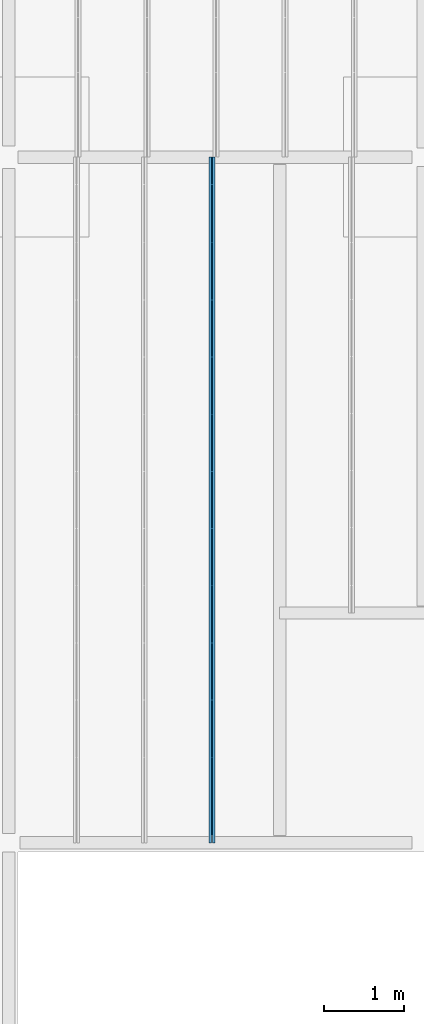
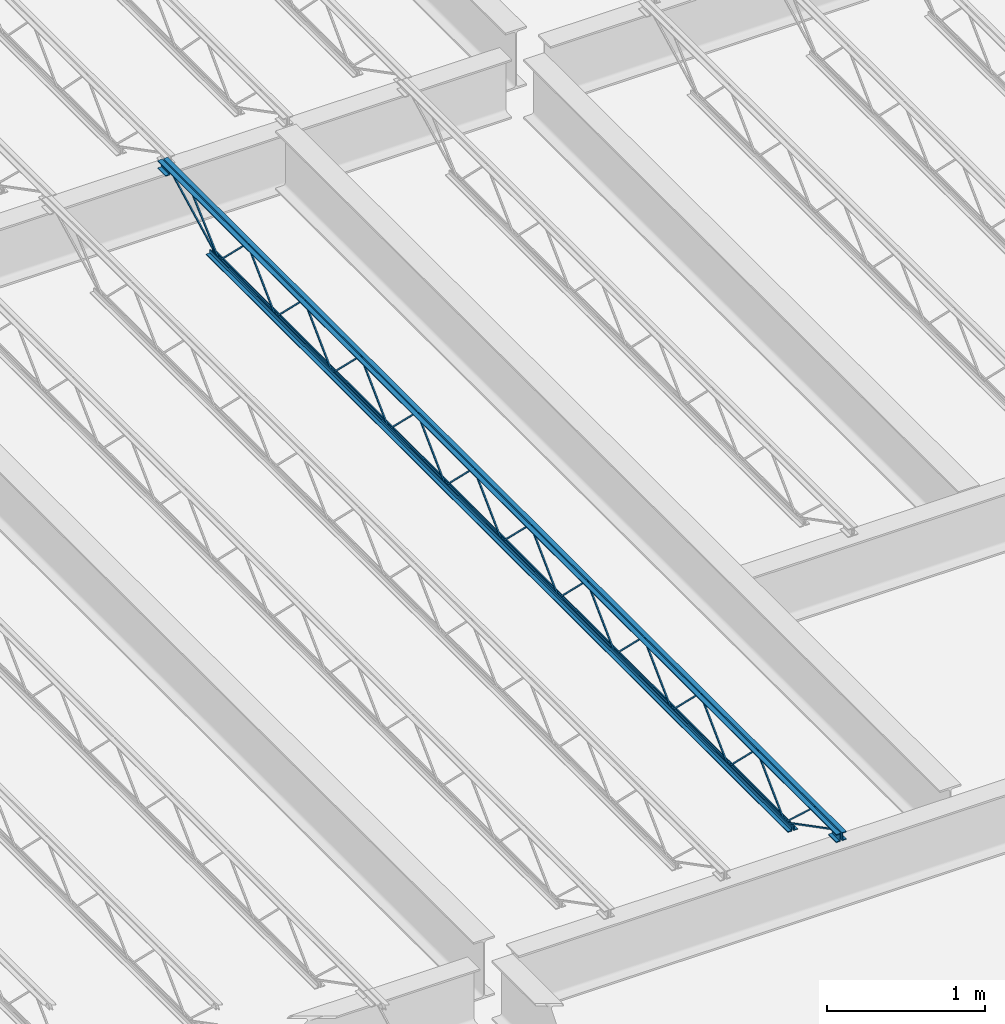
# One storey, part 19 of 75: 1 beam.
"""IFC2X3 building model written with IfcOpenShell, lengths in metres."""

from ifc_helpers import new_model, entity, si_unit, converted_unit, frame, origin, place, context, project, spatial, face_set, surface_model, element, save


model = new_model("IFC2X3")

# Units and contexts
model_context = context("Model", 3, precision=1e-09, world=origin())
plan_context = context("Plan", 3, precision=1e-09, world=origin())
ifc_project = project(units=[si_unit("LENGTHUNIT", "METRE"), si_unit("AREAUNIT", "SQUARE_METRE"), si_unit("VOLUMEUNIT", "CUBIC_METRE"), converted_unit("PLANEANGLEUNIT", "DEGREE", entity("IfcRatioMeasure", 0.01745329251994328), si_unit("PLANEANGLEUNIT", "RADIAN"), dimensions=[0, 0, 0, 0, 0, 0, 0]), si_unit("TIMEUNIT", "SECOND")], contexts=[model_context, plan_context])

# Site, building, storey
site_placement = place(None, origin())
site = spatial("IfcSite", under=ifc_project, at=site_placement, Name="Default", CompositionType="ELEMENT")
building_placement = place(site_placement, origin())
building = spatial("IfcBuilding", under=site, at=building_placement, CompositionType="ELEMENT")
storey_placement = place(building_placement, origin())
storey = spatial("IfcBuildingStorey", under=building, at=storey_placement, Name="First Floor", CompositionType="ELEMENT", Elevation=-3.531500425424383e-13)

# Beam
beam_placement = place(storey_placement, frame((-17.55804409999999, 10.03999999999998, 4.112000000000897), z_axis=(0.0, 0.0, 1.0), x_axis=(-1.0, 0.0, 0.0)))
element("IfcBeam", 1, at=beam_placement, inside=storey, Name="M_K-Series Bar Joist-Rod Web:14K1:14K1", ObjectType="M_K-Series Bar Joist-Rod Web:14K1", context=model_context, shape_type="SurfaceModel", body=[
    surface_model("IfcFaceBasedSurfaceModel", [(-0.03200000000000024, -2.141200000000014, 0.01110000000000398), (-0.04149999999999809, -2.141200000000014, 0.01110000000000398), (-0.04149999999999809, -2.141200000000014, 0.001600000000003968), (-0.03200000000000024, -2.141200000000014, 0.001600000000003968), (-0.04150000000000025, -2.139961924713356, 0.01110000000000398), (-0.03200000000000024, -2.139961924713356, 0.01110000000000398), (-0.04149999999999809, -2.136088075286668, 0.001600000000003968), (-0.04149999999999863, -1.78513807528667, 0.3449000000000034), (-0.04149999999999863, -1.782661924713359, 0.3449000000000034), (-0.04149999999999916, -1.431711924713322, 0.001600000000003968), (-0.04149999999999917, -1.426600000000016, 0.001600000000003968), (-0.04149999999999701, -1.426600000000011, 0.01110000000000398), (-0.04149999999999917, -1.427838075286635, 0.01110000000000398), (-0.04149999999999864, -1.778788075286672, 0.3544000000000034), (-0.04149999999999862, -1.789011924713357, 0.3544000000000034), (-0.03199999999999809, -2.136088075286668, 0.001600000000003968), (-0.03200000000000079, -1.78513807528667, 0.3449000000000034), (-0.03200000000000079, -1.782661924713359, 0.3449000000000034), (-0.03200000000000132, -1.431711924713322, 0.001600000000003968), (-0.03200000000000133, -1.426600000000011, 0.001600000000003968), (-0.03200000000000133, -1.426600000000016, 0.01110000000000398), (-0.03200000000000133, -1.427838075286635, 0.01110000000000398), (-0.03200000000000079, -1.778788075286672, 0.3544000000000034), (-0.03200000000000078, -1.789011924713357, 0.3544000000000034), (-0.03200000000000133, -2.855800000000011, 0.01110000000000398), (-0.04149999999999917, -2.855800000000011, 0.01110000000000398), (-0.04149999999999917, -2.855800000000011, 0.001600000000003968), (-0.03200000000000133, -2.855800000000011, 0.001600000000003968), (-0.04150000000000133, -2.854561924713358, 0.01110000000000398), (-0.03200000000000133, -2.854561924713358, 0.01110000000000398), (-0.04149999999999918, -2.850688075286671, 0.001600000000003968), (-0.04149999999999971, -2.499738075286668, 0.3449000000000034), (-0.04149999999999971, -2.497261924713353, 0.3449000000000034), (-0.04150000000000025, -2.146311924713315, 0.001600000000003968), (-0.04150000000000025, -2.142438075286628, 0.01110000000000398), (-0.04149999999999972, -2.493388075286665, 0.3544000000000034), (-0.0414999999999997, -2.503611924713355, 0.3544000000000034), (-0.03199999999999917, -2.850688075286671, 0.001600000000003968), (-0.03200000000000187, -2.499738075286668, 0.3449000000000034), (-0.03200000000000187, -2.497261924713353, 0.3449000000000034), (-0.0320000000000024, -2.146311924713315, 0.001600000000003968), (-0.03200000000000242, -2.141200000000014, 0.001600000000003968), (-0.03200000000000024, -2.142438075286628, 0.01110000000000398), (-0.03200000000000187, -2.493388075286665, 0.3544000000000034), (-0.03200000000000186, -2.503611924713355, 0.3544000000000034), (-0.03200000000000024, -3.570400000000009, 0.01110000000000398), (-0.04149999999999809, -3.570400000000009, 0.01110000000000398), (-0.04149999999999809, -3.570400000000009, 0.001600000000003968), (-0.03200000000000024, -3.570400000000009, 0.001600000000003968), (-0.04150000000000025, -3.569161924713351, 0.01110000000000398), (-0.03200000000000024, -3.569161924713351, 0.01110000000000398), (-0.04149999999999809, -3.565288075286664, 0.001600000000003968), (-0.04149999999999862, -3.214338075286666, 0.3449000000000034), (-0.04149999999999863, -3.211861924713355, 0.3449000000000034), (-0.04149999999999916, -2.860911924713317, 0.001600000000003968), (-0.04149999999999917, -2.855800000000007, 0.001600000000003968), (-0.04149999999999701, -2.855800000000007, 0.01110000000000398), (-0.04149999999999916, -2.857038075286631, 0.01110000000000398), (-0.04149999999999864, -3.207988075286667, 0.3544000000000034), (-0.04149999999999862, -3.218211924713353, 0.3544000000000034), (-0.03199999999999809, -3.565288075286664, 0.001600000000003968), (-0.03200000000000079, -3.214338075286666, 0.3449000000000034), (-0.03200000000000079, -3.211861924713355, 0.3449000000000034), (-0.03200000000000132, -2.860911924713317, 0.001600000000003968), (-0.03200000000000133, -2.855800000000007, 0.001600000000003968), (-0.03200000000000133, -2.855800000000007, 0.01110000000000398), (-0.03200000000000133, -2.857038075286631, 0.01110000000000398), (-0.03200000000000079, -3.207988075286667, 0.3544000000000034), (-0.03200000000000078, -3.218211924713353, 0.3544000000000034), (-0.03200000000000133, -4.285000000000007, 0.01110000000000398), (-0.04149999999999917, -4.285000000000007, 0.01110000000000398), (-0.04149999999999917, -4.285000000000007, 0.001600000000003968), (-0.03200000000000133, -4.285000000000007, 0.001600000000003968), (-0.04150000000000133, -4.283761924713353, 0.01110000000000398), (-0.03200000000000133, -4.283761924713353, 0.01110000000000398), (-0.04149999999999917, -4.279888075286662, 0.001600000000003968), (-0.0414999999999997, -3.928938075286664, 0.3449000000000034), (-0.04149999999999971, -3.926461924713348, 0.3449000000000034), (-0.04150000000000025, -3.575511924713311, 0.001600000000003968), (-0.04150000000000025, -3.571638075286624, 0.01110000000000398), (-0.04149999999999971, -3.922588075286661, 0.3544000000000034), (-0.0414999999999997, -3.932811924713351, 0.3544000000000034), (-0.03199999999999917, -4.279888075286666, 0.001600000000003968), (-0.03200000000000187, -3.928938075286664, 0.3449000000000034), (-0.03200000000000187, -3.926461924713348, 0.3449000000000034), (-0.0320000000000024, -3.575511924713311, 0.001600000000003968), (-0.03200000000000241, -3.570400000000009, 0.001600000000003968), (-0.03200000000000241, -3.571638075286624, 0.01110000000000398), (-0.03200000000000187, -3.922588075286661, 0.3544000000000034), (-0.03200000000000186, -3.932811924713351, 0.3544000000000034), (-0.03200000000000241, -4.999600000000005, 0.01110000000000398), (-0.04150000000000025, -4.999600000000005, 0.01110000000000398), (-0.04150000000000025, -4.999600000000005, 0.001600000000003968), (-0.03200000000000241, -4.999600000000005, 0.001600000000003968), (-0.04150000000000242, -4.998361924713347, 0.01110000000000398), (-0.03200000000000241, -4.998361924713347, 0.01110000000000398), (-0.04149999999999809, -4.99448807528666, 0.001600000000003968), (-0.04149999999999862, -4.643538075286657, 0.3449000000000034), (-0.04149999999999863, -4.64106192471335, 0.3449000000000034), (-0.04149999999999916, -4.290111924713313, 0.001600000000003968), (-0.04149999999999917, -4.285000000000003, 0.001600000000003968), (-0.04149999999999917, -4.285000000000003, 0.01110000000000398), (-0.04150000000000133, -4.286238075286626, 0.01110000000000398), (-0.04150000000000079, -4.637188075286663, 0.3544000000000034), (-0.04150000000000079, -4.647411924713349, 0.3544000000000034), (-0.03200000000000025, -4.99448807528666, 0.001600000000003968), (-0.03200000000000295, -4.643538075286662, 0.3449000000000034), (-0.03200000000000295, -4.64106192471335, 0.3449000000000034), (-0.03200000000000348, -4.290111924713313, 0.001600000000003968), (-0.03200000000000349, -4.285000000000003, 0.001600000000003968), (-0.03200000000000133, -4.285000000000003, 0.01110000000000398), (-0.03200000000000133, -4.286238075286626, 0.01110000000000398), (-0.03200000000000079, -4.637188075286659, 0.3544000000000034), (-0.03200000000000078, -4.647411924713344, 0.3544000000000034), (-0.03200000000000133, -5.714200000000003, 0.01110000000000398), (-0.04149999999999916, -5.714200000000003, 0.01110000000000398), (-0.04149999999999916, -5.714200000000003, 0.001600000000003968), (-0.03200000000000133, -5.714200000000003, 0.001600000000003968), (-0.04150000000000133, -5.712961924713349, 0.01110000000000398), (-0.03200000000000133, -5.712961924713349, 0.01110000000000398), (-0.04149999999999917, -5.709088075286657, 0.001600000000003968), (-0.0414999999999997, -5.35813807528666, 0.3449000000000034), (-0.04149999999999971, -5.355661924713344, 0.3449000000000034), (-0.04150000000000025, -5.004711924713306, 0.001600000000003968), (-0.04149999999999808, -4.999600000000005, 0.01110000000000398), (-0.04150000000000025, -5.00083807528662, 0.01110000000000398), (-0.04149999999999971, -5.351788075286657, 0.3544000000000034), (-0.0414999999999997, -5.362011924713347, 0.3544000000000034), (-0.03199999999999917, -5.709088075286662, 0.001600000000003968), (-0.03200000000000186, -5.35813807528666, 0.3449000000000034), (-0.03200000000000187, -5.355661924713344, 0.3449000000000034), (-0.0320000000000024, -5.004711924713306, 0.001600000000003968), (-0.0320000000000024, -5.00083807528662, 0.01110000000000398), (-0.03200000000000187, -5.351788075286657, 0.3544000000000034), (-0.03200000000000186, -5.362011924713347, 0.3544000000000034), (-0.03200000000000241, -6.428800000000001, 0.01110000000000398), (-0.04150000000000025, -6.428800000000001, 0.01110000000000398), (-0.04150000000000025, -6.428800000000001, 0.001600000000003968), (-0.03200000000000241, -6.428800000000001, 0.001600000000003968), (-0.04150000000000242, -6.427561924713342, 0.01110000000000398), (-0.03200000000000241, -6.427561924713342, 0.01110000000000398), (-0.04149999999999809, -6.423688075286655, 0.001600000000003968), (-0.04149999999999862, -6.072738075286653, 0.3449000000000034), (-0.04149999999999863, -6.070261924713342, 0.3449000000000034), (-0.04149999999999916, -5.719311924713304, 0.001600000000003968), (-0.04149999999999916, -5.714199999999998, 0.001600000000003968), (-0.04149999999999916, -5.714199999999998, 0.01110000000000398), (-0.04150000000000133, -5.715438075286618, 0.01110000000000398), (-0.04150000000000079, -6.066388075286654, 0.3544000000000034), (-0.04150000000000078, -6.07661192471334, 0.3544000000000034), (-0.03200000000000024, -6.423688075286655, 0.001600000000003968), (-0.03200000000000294, -6.072738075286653, 0.3449000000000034), (-0.03200000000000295, -6.070261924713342, 0.3449000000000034), (-0.03200000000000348, -5.719311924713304, 0.001600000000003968), (-0.03200000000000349, -5.714199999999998, 0.001600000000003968), (-0.03200000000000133, -5.714199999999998, 0.01110000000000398), (-0.03200000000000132, -5.715438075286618, 0.01110000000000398), (-0.03200000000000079, -6.066388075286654, 0.3544000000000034), (-0.03200000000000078, -6.07661192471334, 0.3544000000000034), (-0.03200000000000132, -7.143399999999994, 0.01110000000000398), (-0.04149999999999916, -7.143399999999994, 0.01110000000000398), (-0.04149999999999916, -7.143399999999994, 0.001600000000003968), (-0.03200000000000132, -7.143399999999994, 0.001600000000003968), (-0.04150000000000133, -7.14216192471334, 0.01110000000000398), (-0.03200000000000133, -7.14216192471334, 0.01110000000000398), (-0.04149999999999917, -7.138288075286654, 0.001600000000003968), (-0.0414999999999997, -6.787338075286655, 0.3449000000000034), (-0.0414999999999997, -6.784861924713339, 0.3449000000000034), (-0.04150000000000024, -6.433911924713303, 0.001600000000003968), (-0.04150000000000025, -6.428799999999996, 0.001600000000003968), (-0.04149999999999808, -6.428799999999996, 0.01110000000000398), (-0.04150000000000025, -6.430038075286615, 0.01110000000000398), (-0.04149999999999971, -6.780988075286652, 0.3544000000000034), (-0.0414999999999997, -6.791211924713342, 0.3544000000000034), (-0.03199999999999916, -7.138288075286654, 0.001600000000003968), (-0.03200000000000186, -6.787338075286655, 0.3449000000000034), (-0.03200000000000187, -6.784861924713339, 0.3449000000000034), (-0.0320000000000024, -6.433911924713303, 0.001600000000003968), (-0.03200000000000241, -6.428799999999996, 0.001600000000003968), (-0.03200000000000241, -6.428799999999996, 0.01110000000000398), (-0.0320000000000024, -6.430038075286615, 0.01110000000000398), (-0.03200000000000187, -6.780988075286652, 0.3544000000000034), (-0.03200000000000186, -6.791211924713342, 0.3544000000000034), (-0.03199999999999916, -1.426600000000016, 0.01109999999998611), (-0.04149999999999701, -1.426600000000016, 0.01109999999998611), (-0.04149999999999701, -1.426600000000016, 0.0015999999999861), (-0.03199999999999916, -1.426600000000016, 0.0015999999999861), (-0.04149999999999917, -1.425361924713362, 0.01109999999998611), (-0.03199999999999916, -1.425361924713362, 0.01109999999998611), (-0.04149999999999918, -1.421488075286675, 0.0015999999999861), (-0.04149999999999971, -1.070538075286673, 0.3448999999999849), (-0.04149999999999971, -1.068061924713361, 0.3448999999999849), (-0.04150000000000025, -0.7171119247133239, 0.0015999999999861), (-0.04149999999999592, -0.712000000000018, 0.0015999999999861), (-0.04149999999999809, -0.7120000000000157, 0.01109999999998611), (-0.04150000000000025, -0.7132380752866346, 0.01109999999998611), (-0.04149999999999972, -1.06418807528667, 0.354399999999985), (-0.0414999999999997, -1.07441192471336, 0.354399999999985), (-0.03199999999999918, -1.421488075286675, 0.0015999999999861), (-0.0319999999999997, -1.070538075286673, 0.3448999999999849), (-0.0319999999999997, -1.068061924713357, 0.3448999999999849), (-0.03200000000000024, -0.7171119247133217, 0.0015999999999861), (-0.03200000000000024, -0.7120000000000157, 0.0015999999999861), (-0.03199999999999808, -0.712000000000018, 0.01109999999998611), (-0.03199999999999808, -0.7132380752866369, 0.01109999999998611), (-0.03199999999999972, -1.064188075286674, 0.354399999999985), (-0.0319999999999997, -1.07441192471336, 0.354399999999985), (-0.0320000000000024, -7.857999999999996, 0.01110000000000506), (-0.04150000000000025, -7.857999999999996, 0.01110000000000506), (-0.04150000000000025, -7.857999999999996, 0.001600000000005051), (-0.0320000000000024, -7.857999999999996, 0.001600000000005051), (-0.04150000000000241, -7.856761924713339, 0.01110000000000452), (-0.03200000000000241, -7.856761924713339, 0.01110000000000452), (-0.04149999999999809, -7.852888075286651, 0.001600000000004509), (-0.04149999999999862, -7.501938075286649, 0.3449000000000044), (-0.04149999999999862, -7.499461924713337, 0.3449000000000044), (-0.04149999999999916, -7.1485119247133, 0.001600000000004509), (-0.04149999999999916, -7.143399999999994, 0.001600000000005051), (-0.04149999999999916, -7.143399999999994, 0.01110000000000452), (-0.04150000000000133, -7.144638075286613, 0.01110000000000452), (-0.04150000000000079, -7.49558807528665, 0.3544000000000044), (-0.04150000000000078, -7.505811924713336, 0.3544000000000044), (-0.03200000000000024, -7.852888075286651, 0.001600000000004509), (-0.03200000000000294, -7.501938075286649, 0.3449000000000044), (-0.03200000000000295, -7.499461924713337, 0.3449000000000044), (-0.03200000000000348, -7.1485119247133, 0.001600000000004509), (-0.03200000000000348, -7.143399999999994, 0.001600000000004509), (-0.03200000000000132, -7.143399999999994, 0.01110000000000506), (-0.03200000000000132, -7.144638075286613, 0.01110000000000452), (-0.03200000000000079, -7.49558807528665, 0.3544000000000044), (-0.03200000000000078, -7.505811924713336, 0.3544000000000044), (-0.04150000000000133, 0.0, 0.3559999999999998), (-0.07350000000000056, 0.0, 0.3559999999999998), (-0.07350000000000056, 0.0, 0.349499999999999), (-0.04800000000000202, 0.0, 0.349499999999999), (-0.04800000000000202, 0.0, 0.3239999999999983), (-0.04150000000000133, 0.0, 0.3239999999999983), (-0.03200000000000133, 0.0, 0.3559999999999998), (-0.03200000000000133, 0.0, 0.3239999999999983), (-0.02550000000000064, 0.0, 0.3239999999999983), (-0.02550000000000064, 0.0, 0.349499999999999), (0.0, 0.0, 0.349499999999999), (0.0, 0.0, 0.3559999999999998), (-0.04150000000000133, -8.569999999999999, 0.3559999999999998), (-0.07350000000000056, -8.569999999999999, 0.3559999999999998), (-0.07350000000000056, -8.569999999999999, 0.349499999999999), (-0.04800000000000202, -8.569999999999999, 0.349499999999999), (-0.04800000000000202, -8.569999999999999, 0.3239999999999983), (-0.04150000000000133, -8.569999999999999, 0.3239999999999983), (-0.03200000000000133, -8.569999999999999, 0.3559999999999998), (-0.03200000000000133, -8.569999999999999, 0.3239999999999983), (-0.02550000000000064, -8.569999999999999, 0.3239999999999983), (-0.02550000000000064, -8.569999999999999, 0.349499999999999), (0.0, -8.569999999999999, 0.349499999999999), (0.0, -8.569999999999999, 0.3559999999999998), (-0.03200000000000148, -8.470000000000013, 0.2924999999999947), (0.0, -8.470000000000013, 0.2924999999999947), (0.0, -8.470000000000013, 0.2989999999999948), (-0.02550000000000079, -8.470000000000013, 0.2989999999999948), (-0.02550000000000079, -8.470000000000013, 0.3239999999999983), (-0.03200000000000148, -8.470000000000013, 0.3239999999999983), (-0.0735000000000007, -8.470000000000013, 0.2924999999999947), (-0.04150000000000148, -8.470000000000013, 0.2924999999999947), (-0.04150000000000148, -8.470000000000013, 0.3239999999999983), (-0.04800000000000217, -8.470000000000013, 0.3239999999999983), (-0.04800000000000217, -8.470000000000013, 0.2989999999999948), (-0.0735000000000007, -8.470000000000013, 0.2989999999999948), (-0.03200000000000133, -8.569999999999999, 0.2924999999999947), (0.0, -8.569999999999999, 0.2924999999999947), (0.0, -8.569999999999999, 0.2989999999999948), (-0.02550000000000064, -8.569999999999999, 0.2989999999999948), (-0.07350000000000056, -8.569999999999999, 0.2924999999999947), (-0.04150000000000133, -8.569999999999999, 0.2924999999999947), (-0.04800000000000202, -8.569999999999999, 0.2989999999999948), (-0.07350000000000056, -8.569999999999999, 0.2989999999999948), (-0.04150000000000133, 0.0, 0.2924999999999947), (-0.04799999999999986, 0.0, 0.3239999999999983), (-0.04799999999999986, 0.0, 0.2989999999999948), (-0.07350000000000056, 0.0, 0.2989999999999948), (-0.07350000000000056, 0.0, 0.2924999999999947), (-0.03200000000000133, 0.0, 0.2924999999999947), (0.0, 0.0, 0.2924999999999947), (0.0, 0.0, 0.2989999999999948), (-0.02550000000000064, 0.0, 0.2989999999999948), (-0.04150000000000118, -0.09999999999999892, 0.2924999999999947), (-0.04150000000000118, -0.09999999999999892, 0.3239999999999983), (-0.0479999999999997, -0.09999999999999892, 0.3239999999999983), (-0.0479999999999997, -0.09999999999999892, 0.2989999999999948), (-0.07350000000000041, -0.09999999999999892, 0.2989999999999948), (-0.07350000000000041, -0.09999999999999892, 0.2924999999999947), (-0.03200000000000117, -0.09999999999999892, 0.2924999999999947), (0.0, -0.09999999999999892, 0.2924999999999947), (0.0, -0.09999999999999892, 0.2989999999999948), (-0.02550000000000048, -0.09999999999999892, 0.2989999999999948), (-0.02550000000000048, -0.09999999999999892, 0.3239999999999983), (-0.03200000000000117, -0.09999999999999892, 0.3239999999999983), (-0.04150000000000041, -0.6119999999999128, 0.0), (-0.04150000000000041, -0.6119999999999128, 0.03199999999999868), (-0.04800000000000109, -0.6119999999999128, 0.03199999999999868), (-0.04800000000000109, -0.6119999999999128, 0.006499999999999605), (-0.07349999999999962, -0.6119999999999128, 0.006499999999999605), (-0.07349999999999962, -0.6119999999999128, 0.0), (-0.0320000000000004, -0.6119999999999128, 0.0), (0.0, -0.6119999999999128, 0.0), (0.0, -0.6119999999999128, 0.006499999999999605), (-0.02549999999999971, -0.6119999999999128, 0.006499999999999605), (-0.02549999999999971, -0.6119999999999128, 0.03199999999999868), (-0.0320000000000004, -0.6119999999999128, 0.03199999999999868), (-0.04150000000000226, -7.957999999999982, 0.0), (-0.04150000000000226, -7.957999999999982, 0.03199999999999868), (-0.04800000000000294, -7.957999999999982, 0.03199999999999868), (-0.04800000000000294, -7.957999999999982, 0.006499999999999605), (-0.07350000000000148, -7.957999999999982, 0.006499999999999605), (-0.07350000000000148, -7.957999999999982, 0.0), (-0.03200000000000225, -7.957999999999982, 0.0), (0.0, -7.957999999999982, 0.0), (0.0, -7.957999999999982, 0.006499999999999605), (-0.02550000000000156, -7.957999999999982, 0.006499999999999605), (-0.02550000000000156, -7.957999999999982, 0.03199999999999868), (-0.03200000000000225, -7.957999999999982, 0.03199999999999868), (-0.03200000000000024, -7.855811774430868, 0.01056594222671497), (-0.04150000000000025, -7.855811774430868, 0.01056594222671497), (-0.04150000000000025, -7.860188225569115, 0.002134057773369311), (-0.0320000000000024, -7.860188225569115, 0.002134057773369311), (-0.03199999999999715, -8.468840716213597, 0.3287499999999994), (-0.031999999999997, -8.569999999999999, 0.3287499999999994), (-0.03199999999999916, -8.569999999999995, 0.3192499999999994), (-0.03199999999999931, -8.471159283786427, 0.3192499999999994), (-0.04149999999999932, -8.471159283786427, 0.3192499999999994), (-0.04149999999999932, -8.468840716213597, 0.3287499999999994), (-0.04149999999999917, -8.569999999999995, 0.3287499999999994), (-0.04149999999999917, -8.569999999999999, 0.3192499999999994), (-0.03200000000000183, -8.235257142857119, 0.341700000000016), (-0.04149999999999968, -8.235257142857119, 0.341700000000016), (-0.04149999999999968, -8.235257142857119, 0.332200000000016), (-0.03200000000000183, -8.235257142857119, 0.332200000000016), (-0.04150000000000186, -8.220724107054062, 0.341700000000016), (-0.03200000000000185, -8.220724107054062, 0.341700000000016), (-0.04149999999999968, -8.22439017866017, 0.332200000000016), (-0.04150000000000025, -7.86119088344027, 0.002831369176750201), (-0.04150000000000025, -7.854809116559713, 0.009868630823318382), (-0.03199999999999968, -8.22439017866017, 0.332200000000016), (-0.0320000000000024, -7.86119088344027, 0.002831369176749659), (-0.03200000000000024, -7.854809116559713, 0.009868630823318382), (-0.03199999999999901, -0.09781177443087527, 0.3197840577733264), (-0.03200000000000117, -0.1021882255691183, 0.3282159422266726), (-0.04150000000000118, -0.1021882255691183, 0.3282159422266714), (-0.04149999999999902, -0.09781177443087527, 0.3197840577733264), (-0.03199999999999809, -0.7098117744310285, 0.002134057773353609), (-0.03200000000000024, -0.7141882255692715, 0.01056594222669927), (-0.04150000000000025, -0.7141882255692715, 0.01056594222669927), (-0.04149999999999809, -0.7098117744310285, 0.002134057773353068), (-0.03199999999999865, -0.3369634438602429, 0.3461600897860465), (-0.03200000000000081, -0.3434079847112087, 0.3531399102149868), (-0.04150000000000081, -0.3434079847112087, 0.3531399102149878), (-0.04149999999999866, -0.3369634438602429, 0.3461600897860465), (-0.03199999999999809, -0.7087777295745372, 0.002860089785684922), (-0.03200000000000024, -0.7152222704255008, 0.009839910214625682), (-0.04150000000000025, -0.7152222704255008, 0.009839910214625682), (-0.04149999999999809, -0.7087777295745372, 0.002860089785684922)], [face_set([[[0, 1, 2, 3]], [[1, 4, 5, 0]], [[2, 6, 7, 8, 9, 10, 11, 12, 13, 14, 4, 1]], [[3, 2, 6, 15]], [[0, 3, 15, 16, 17, 18, 19, 20, 21, 22, 23, 5]], [[4, 5, 23, 14]], [[15, 16, 7, 6]], [[14, 13, 22, 23]], [[16, 7, 8, 17]], [[13, 12, 21, 22]], [[17, 8, 9, 18]], [[20, 11, 10, 19]], [[12, 11, 20, 21]], [[18, 9, 10, 19]]]), face_set([[[24, 25, 26, 27]], [[25, 28, 29, 24]], [[26, 30, 31, 32, 33, 2, 1, 34, 35, 36, 28, 25]], [[27, 26, 30, 37]], [[24, 27, 37, 38, 39, 40, 41, 0, 42, 43, 44, 29]], [[28, 29, 44, 36]], [[37, 38, 31, 30]], [[36, 35, 43, 44]], [[38, 31, 32, 39]], [[35, 34, 42, 43]], [[39, 32, 33, 40]], [[0, 1, 2, 41]], [[34, 1, 0, 42]], [[40, 33, 2, 41]]]), face_set([[[45, 46, 47, 48]], [[46, 49, 50, 45]], [[47, 51, 52, 53, 54, 55, 56, 57, 58, 59, 49, 46]], [[48, 47, 51, 60]], [[45, 48, 60, 61, 62, 63, 64, 65, 66, 67, 68, 50]], [[49, 50, 68, 59]], [[60, 61, 52, 51]], [[59, 58, 67, 68]], [[61, 52, 53, 62]], [[58, 57, 66, 67]], [[62, 53, 54, 63]], [[65, 56, 55, 64]], [[57, 56, 65, 66]], [[63, 54, 55, 64]]]), face_set([[[69, 70, 71, 72]], [[70, 73, 74, 69]], [[71, 75, 76, 77, 78, 47, 46, 79, 80, 81, 73, 70]], [[72, 71, 75, 82]], [[69, 72, 82, 83, 84, 85, 86, 45, 87, 88, 89, 74]], [[73, 74, 89, 81]], [[82, 83, 76, 75]], [[81, 80, 88, 89]], [[83, 76, 77, 84]], [[80, 79, 87, 88]], [[84, 77, 78, 85]], [[45, 46, 47, 86]], [[79, 46, 45, 87]], [[85, 78, 47, 86]]]), face_set([[[90, 91, 92, 93]], [[91, 94, 95, 90]], [[92, 96, 97, 98, 99, 100, 101, 102, 103, 104, 94, 91]], [[93, 92, 96, 105]], [[90, 93, 105, 106, 107, 108, 109, 110, 111, 112, 113, 95]], [[94, 95, 113, 104]], [[105, 106, 97, 96]], [[104, 103, 112, 113]], [[106, 97, 98, 107]], [[103, 102, 111, 112]], [[107, 98, 99, 108]], [[110, 101, 100, 109]], [[102, 101, 110, 111]], [[108, 99, 100, 109]]]), face_set([[[114, 115, 116, 117]], [[115, 118, 119, 114]], [[116, 120, 121, 122, 123, 92, 124, 125, 126, 127, 118, 115]], [[117, 116, 120, 128]], [[114, 117, 128, 129, 130, 131, 93, 90, 132, 133, 134, 119]], [[118, 119, 134, 127]], [[128, 129, 121, 120]], [[127, 126, 133, 134]], [[129, 121, 122, 130]], [[126, 125, 132, 133]], [[130, 122, 123, 131]], [[90, 124, 92, 93]], [[125, 124, 90, 132]], [[131, 123, 92, 93]]]), face_set([[[135, 136, 137, 138]], [[136, 139, 140, 135]], [[137, 141, 142, 143, 144, 145, 146, 147, 148, 149, 139, 136]], [[138, 137, 141, 150]], [[135, 138, 150, 151, 152, 153, 154, 155, 156, 157, 158, 140]], [[139, 140, 158, 149]], [[150, 151, 142, 141]], [[149, 148, 157, 158]], [[151, 142, 143, 152]], [[148, 147, 156, 157]], [[152, 143, 144, 153]], [[155, 146, 145, 154]], [[147, 146, 155, 156]], [[153, 144, 145, 154]]]), face_set([[[159, 160, 161, 162]], [[160, 163, 164, 159]], [[161, 165, 166, 167, 168, 169, 170, 171, 172, 173, 163, 160]], [[162, 161, 165, 174]], [[159, 162, 174, 175, 176, 177, 178, 179, 180, 181, 182, 164]], [[163, 164, 182, 173]], [[174, 175, 166, 165]], [[173, 172, 181, 182]], [[175, 166, 167, 176]], [[172, 171, 180, 181]], [[176, 167, 168, 177]], [[179, 170, 169, 178]], [[171, 170, 179, 180]], [[177, 168, 169, 178]]]), face_set([[[183, 184, 185, 186]], [[184, 187, 188, 183]], [[185, 189, 190, 191, 192, 193, 194, 195, 196, 197, 187, 184]], [[186, 185, 189, 198]], [[183, 186, 198, 199, 200, 201, 202, 203, 204, 205, 206, 188]], [[187, 188, 206, 197]], [[198, 199, 190, 189]], [[197, 196, 205, 206]], [[199, 190, 191, 200]], [[196, 195, 204, 205]], [[200, 191, 192, 201]], [[203, 194, 193, 202]], [[195, 194, 203, 204]], [[201, 192, 193, 202]]]), face_set([[[207, 208, 209, 210]], [[208, 211, 212, 207]], [[209, 213, 214, 215, 216, 217, 218, 219, 220, 221, 211, 208]], [[210, 209, 213, 222]], [[207, 210, 222, 223, 224, 225, 226, 227, 228, 229, 230, 212]], [[211, 212, 230, 221]], [[222, 223, 214, 213]], [[221, 220, 229, 230]], [[223, 214, 215, 224]], [[220, 219, 228, 229]], [[224, 215, 216, 225]], [[227, 218, 217, 226]], [[219, 218, 227, 228]], [[225, 216, 217, 226]]]), face_set([[[231, 232, 233, 234, 235, 236]], [[237, 238, 239, 240, 241, 242]], [[243, 244, 245, 246, 247, 248]], [[249, 250, 251, 252, 253, 254]], [[236, 231, 243, 248]], [[235, 236, 248, 247]], [[234, 246, 247, 235]], [[233, 234, 246, 245]], [[232, 244, 245, 233]], [[231, 243, 244, 232]], [[242, 254, 249, 237]], [[241, 242, 254, 253]], [[240, 241, 253, 252]], [[239, 240, 252, 251]], [[238, 239, 251, 250]], [[237, 249, 250, 238]]]), face_set([[[255, 256, 257, 258, 259, 260]], [[261, 262, 263, 264, 265, 266]], [[267, 268, 269, 270, 251, 250]], [[271, 272, 248, 247, 273, 274]], [[260, 250, 267, 255]], [[259, 251, 250, 260]], [[258, 259, 251, 270]], [[257, 269, 270, 258]], [[256, 257, 269, 268]], [[255, 256, 268, 267]], [[266, 274, 271, 261]], [[265, 273, 274, 266]], [[264, 247, 273, 265]], [[263, 248, 247, 264]], [[262, 263, 248, 272]], [[261, 262, 272, 271]]]), face_set([[[275, 236, 276, 277, 278, 279]], [[280, 281, 282, 283, 239, 238]], [[284, 285, 286, 287, 288, 289]], [[290, 291, 292, 293, 294, 295]], [[279, 275, 284, 289]], [[278, 288, 289, 279]], [[277, 287, 288, 278]], [[276, 286, 287, 277]], [[236, 285, 286, 276]], [[275, 236, 285, 284]], [[238, 295, 290, 280]], [[239, 294, 295, 238]], [[283, 239, 294, 293]], [[282, 292, 293, 283]], [[281, 282, 292, 291]], [[280, 281, 291, 290]]]), face_set([[[296, 297, 298, 299, 300, 301]], [[302, 303, 304, 305, 306, 307]], [[308, 309, 310, 311, 312, 313]], [[314, 315, 316, 317, 318, 319]], [[301, 296, 308, 313]], [[300, 312, 313, 301]], [[299, 311, 312, 300]], [[298, 310, 311, 299]], [[297, 309, 310, 298]], [[296, 297, 309, 308]], [[307, 319, 314, 302]], [[306, 318, 319, 307]], [[305, 306, 318, 317]], [[304, 316, 317, 305]], [[303, 304, 316, 315]], [[302, 303, 315, 314]]]), face_set([[[320, 321, 322, 323]], [[323, 320, 324, 325, 326, 327]], [[322, 323, 327, 328]], [[321, 329, 330, 331, 328, 322]], [[320, 324, 329, 321]], [[325, 330, 331, 326]], [[328, 327, 326, 331]], [[324, 325, 330, 329]]]), face_set([[[332, 333, 334, 335]], [[333, 336, 337, 332]], [[334, 338, 339, 340, 336, 333]], [[335, 334, 338, 341]], [[332, 335, 341, 342, 343, 337]], [[343, 340, 339, 342]], [[336, 340, 343, 337]], [[341, 338, 339, 342]]]), face_set([[[344, 345, 346, 347]], [[348, 349, 350, 351]], [[347, 351, 348, 344]], [[346, 350, 351, 347]], [[345, 346, 350, 349]], [[344, 345, 349, 348]]]), face_set([[[352, 353, 354, 355]], [[356, 357, 358, 359]], [[355, 359, 356, 352]], [[354, 358, 359, 355]], [[353, 354, 358, 357]], [[352, 353, 357, 356]]])]),
])

save(model, "model.ifc")
